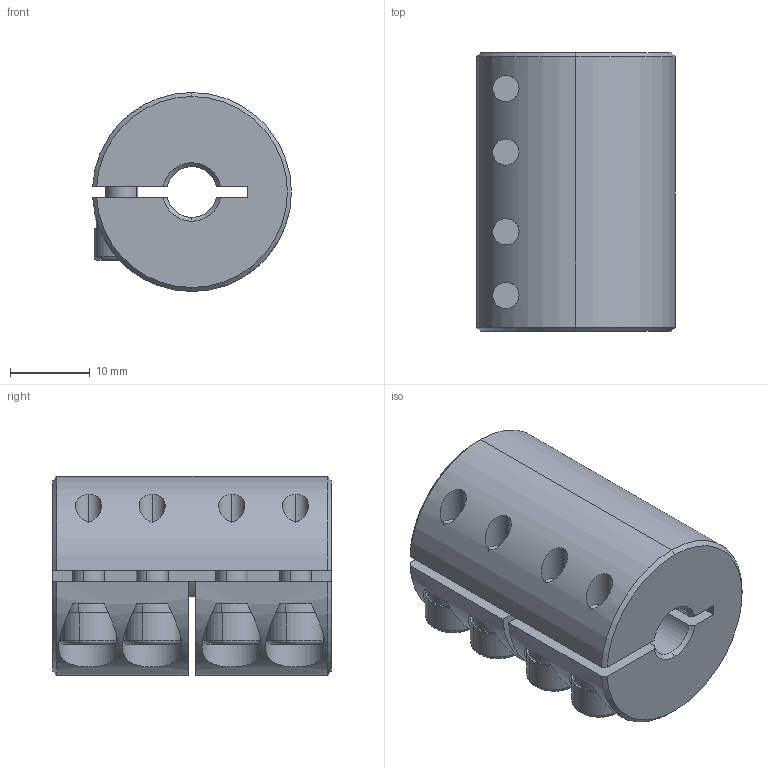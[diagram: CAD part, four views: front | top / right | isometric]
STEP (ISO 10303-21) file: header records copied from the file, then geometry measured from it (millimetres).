
FILE_DESCRIPTION (( 'STEP AP203' ), '1' );
FILE_NAME ('LL-B-D25L35-6.35-7.STEP', '2021-11-05T06:55:49', ( '' ), ( '' ), 'SwSTEP 2.0', 'SolidWorks 2018', '' );
FILE_SCHEMA (( 'CONFIG_CONTROL_DESIGN' ));
Length unit declared in the file: millimetre
Products named in the file (1): LL-B-D25L35-6.35-7
Bounding box: 24.98 x 35 x 25 mm (x, y, z)
Volume: 14804.3 mm3; surface area: 6878.6 mm2
Topology: 1 solids, 1 shells, 192 faces, 493 edges, 307 vertices
Faces by surface type: plane 92, cylinder 72, cone 20, torus 8
Entity records: 6313 total; most frequent: CARTESIAN_POINT 1497, DIRECTION 1042, ORIENTED_EDGE 970, EDGE_CURVE 485, AXIS2_PLACEMENT_3D 404, VERTEX_POINT 307, VECTOR 234, LINE 234
